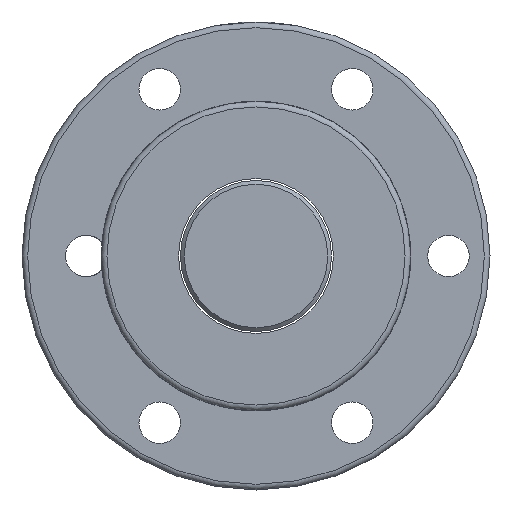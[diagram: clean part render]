
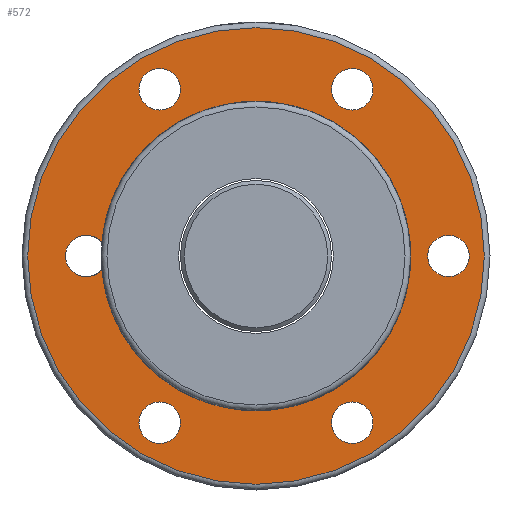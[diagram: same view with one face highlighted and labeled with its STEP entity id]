
A CAD part, left-side view. The second image highlights one B-rep face of the part: STEP entity #572.
In plain terms, the highlighted planar face has unit normal (-1, 0, 0).
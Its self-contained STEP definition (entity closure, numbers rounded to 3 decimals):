
#73=PLANE('',#677);
#160=ORIENTED_EDGE('',*,*,#241,.F.);
#161=ORIENTED_EDGE('',*,*,#240,.F.);
#162=ORIENTED_EDGE('',*,*,#236,.F.);
#163=ORIENTED_EDGE('',*,*,#232,.F.);
#164=ORIENTED_EDGE('',*,*,#228,.F.);
#165=ORIENTED_EDGE('',*,*,#224,.F.);
#166=ORIENTED_EDGE('',*,*,#216,.F.);
#167=ORIENTED_EDGE('',*,*,#244,.T.);
#216=EDGE_CURVE('',#273,#274,#318,.T.);
#224=EDGE_CURVE('',#280,#280,#323,.T.);
#228=EDGE_CURVE('',#284,#284,#327,.T.);
#232=EDGE_CURVE('',#288,#288,#331,.T.);
#236=EDGE_CURVE('',#292,#292,#335,.T.);
#240=EDGE_CURVE('',#296,#296,#339,.T.);
#241=EDGE_CURVE('',#297,#297,#340,.T.);
#244=EDGE_CURVE('',#273,#274,#343,.T.);
#273=VERTEX_POINT('',#942);
#274=VERTEX_POINT('',#943);
#280=VERTEX_POINT('',#966);
#284=VERTEX_POINT('',#977);
#288=VERTEX_POINT('',#988);
#292=VERTEX_POINT('',#999);
#296=VERTEX_POINT('',#1010);
#297=VERTEX_POINT('',#1013);
#318=CIRCLE('',#630,5.5);
#323=CIRCLE('',#639,5.5);
#327=CIRCLE('',#646,5.5);
#331=CIRCLE('',#653,5.5);
#335=CIRCLE('',#660,5.5);
#339=CIRCLE('',#667,5.5);
#340=CIRCLE('',#669,60.5);
#343=CIRCLE('',#676,41.);
#413=EDGE_LOOP('',(#160));
#414=EDGE_LOOP('',(#161));
#415=EDGE_LOOP('',(#162));
#416=EDGE_LOOP('',(#163));
#417=EDGE_LOOP('',(#164));
#418=EDGE_LOOP('',(#165));
#419=EDGE_LOOP('',(#166,#167));
#500=FACE_BOUND('',#413,.T.);
#501=FACE_BOUND('',#414,.T.);
#502=FACE_BOUND('',#415,.T.);
#503=FACE_BOUND('',#416,.T.);
#504=FACE_BOUND('',#417,.T.);
#505=FACE_BOUND('',#418,.T.);
#506=FACE_BOUND('',#419,.T.);
#572=ADVANCED_FACE('',(#500,#501,#502,#503,#504,#505,#506),#73,.T.);
#630=AXIS2_PLACEMENT_3D('',#941,#736,#737);
#639=AXIS2_PLACEMENT_3D('',#965,#756,#757);
#646=AXIS2_PLACEMENT_3D('',#976,#770,#771);
#653=AXIS2_PLACEMENT_3D('',#987,#784,#785);
#660=AXIS2_PLACEMENT_3D('',#998,#798,#799);
#667=AXIS2_PLACEMENT_3D('',#1009,#812,#813);
#669=AXIS2_PLACEMENT_3D('',#1012,#816,#817);
#676=AXIS2_PLACEMENT_3D('',#1022,#830,#831);
#677=AXIS2_PLACEMENT_3D('',#1023,#832,#833);
#736=DIRECTION('',(-1.,0.,0.));
#737=DIRECTION('',(0.,-1.,0.));
#756=DIRECTION('',(-1.,0.,0.));
#757=DIRECTION('',(0.,-1.,0.));
#770=DIRECTION('',(-1.,0.,0.));
#771=DIRECTION('',(0.,-1.,0.));
#784=DIRECTION('',(-1.,0.,0.));
#785=DIRECTION('',(0.,-1.,0.));
#798=DIRECTION('',(-1.,0.,0.));
#799=DIRECTION('',(0.,-1.,0.));
#812=DIRECTION('',(-1.,0.,0.));
#813=DIRECTION('',(0.,-1.,0.));
#816=DIRECTION('',(1.,0.,0.));
#817=DIRECTION('',(0.,1.,0.));
#830=DIRECTION('',(1.,0.,0.));
#831=DIRECTION('',(0.,1.,0.));
#832=DIRECTION('',(-1.,0.,0.));
#833=DIRECTION('',(0.,-1.,0.));
#941=CARTESIAN_POINT('',(-33.,45.,0.));
#942=CARTESIAN_POINT('',(-33.,40.842,3.6));
#943=CARTESIAN_POINT('',(-33.,40.842,-3.6));
#965=CARTESIAN_POINT('',(-33.,-51.,0.));
#966=CARTESIAN_POINT('',(-33.,-56.5,0.));
#976=CARTESIAN_POINT('',(-33.,25.5,-44.167));
#977=CARTESIAN_POINT('',(-33.,20.,-44.167));
#987=CARTESIAN_POINT('',(-33.,-25.5,-44.167));
#988=CARTESIAN_POINT('',(-33.,-31.,-44.167));
#998=CARTESIAN_POINT('',(-33.,-25.5,44.167));
#999=CARTESIAN_POINT('',(-33.,-31.,44.167));
#1009=CARTESIAN_POINT('',(-33.,25.5,44.167));
#1010=CARTESIAN_POINT('',(-33.,20.,44.167));
#1012=CARTESIAN_POINT('',(-33.,0.,0.));
#1013=CARTESIAN_POINT('',(-33.,60.5,0.));
#1022=CARTESIAN_POINT('',(-33.,0.,0.));
#1023=CARTESIAN_POINT('',(-33.,50.75,0.));
